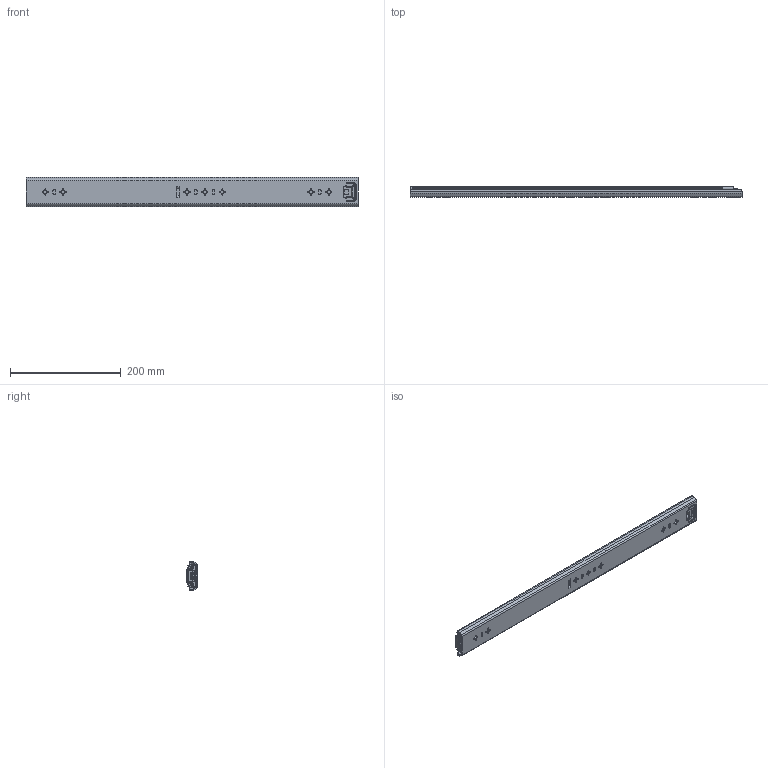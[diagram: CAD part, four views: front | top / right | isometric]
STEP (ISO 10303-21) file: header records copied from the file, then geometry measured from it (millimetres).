
FILE_DESCRIPTION((''),'2;1');
FILE_NAME('1053-02-24_ASM','2022-08-15T',('jishu015'),(''),'PRO/ENGINEER BY PARAMETRIC TECHNOLOGY CORPORATION, 2010280','PRO/ENGINEER BY PARAMETRIC TECHNOLOGY CORPORATION, 2010280','');
FILE_SCHEMA(('CONFIG_CONTROL_DESIGN'));
Length unit declared in the file: millimetre
Products named in the file (16): 1053-02-24WAIKE; 1053WEIJIAO____________; 53-WAIKEJIAO-24; 1053-02-24WAIKE_ASM; 1053ZHUTIAO-175____________; 53-5-6GANZHU____________; 1053ZHUTIAO-175MM_____________ASM; 1053-02-18ZHONGGUI____________; 53ZHIDIJIAO____________; 1053-02-18ZHONGGUI_____________ASM; 1053XIAOZHUJIA-14GE____________; 1053XIAOZHUJIA-14GE_____________ASM; 1053-02-18NEIGUI____________; 53BACHA___________; 1053-02-18NEIGUI_____________ASM; 1053-02-24_ASM
Assembly tree (66 placements, depth 3):
  1053-02-24_ASM
    1053-02-24WAIKE_ASM
      1053-02-24WAIKE
      1053WEIJIAO____________
      53-WAIKEJIAO-24
    1053ZHUTIAO-175MM_____________ASM  x2
      1053ZHUTIAO-175____________
      53-5-6GANZHU____________
    1053-02-18ZHONGGUI_____________ASM
      1053-02-18ZHONGGUI____________
      53ZHIDIJIAO____________
    1053XIAOZHUJIA-14GE_____________ASM
      1053XIAOZHUJIA-14GE____________
      53-5-6GANZHU____________  x40
    1053-02-18NEIGUI_____________ASM
      1053-02-18NEIGUI____________
      53BACHA___________
Bounding box: 600 x 18.7 x 53 mm (x, y, z)
Volume: 228546.8 mm3; surface area: 261423.2 mm2
Topology: 72 solids, 72 shells, 1866 faces, 5374 edges, 3345 vertices
Faces by surface type: cylinder 816, plane 726, sphere 142, bspline 80, cone 68, torus 34
Entity records: 60169 total; most frequent: CARTESIAN_POINT 15076, ORIENTED_EDGE 9540, DIRECTION 9353, EDGE_CURVE 4770, AXIS2_PLACEMENT_3D 3289, VERTEX_POINT 3074, VECTOR 2775, LINE 2775
